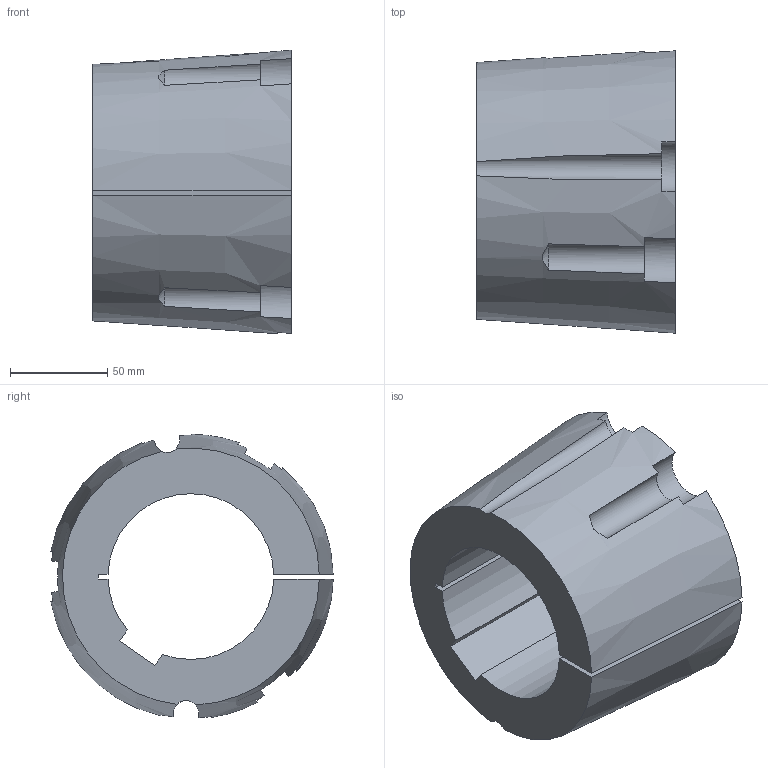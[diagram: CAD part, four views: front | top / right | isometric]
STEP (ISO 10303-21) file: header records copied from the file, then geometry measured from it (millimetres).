
FILE_DESCRIPTION( ( 'STEP AP203' ), '1' );
FILE_NAME( 'D:/export/antriebselemente/spannbuchsen_und_spannsaetze/taper-spannbuchsen_1008_bis_5050/taper-spannbuchsen_62251485Isometric_245.stp', '2018-12-11T11:11:34', ( '' ), ( '' ), ' ', 'PARTsolutions', ' ' );
FILE_SCHEMA( ( 'CONFIG_CONTROL_DESIGN' ) );
Length unit declared in the file: millimetre
Products named in the file (1): _taper-spannbuchsen_62251485
Bounding box: 102 x 144.84 x 145.4 mm (x, y, z)
Volume: 903168 mm3; surface area: 100367.4 mm2
Topology: 1 solids, 1 shells, 34 faces, 96 edges, 64 vertices
Faces by surface type: plane 15, cylinder 13, cone 6
Entity records: 1310 total; most frequent: CARTESIAN_POINT 386, ORIENTED_EDGE 192, DIRECTION 186, EDGE_CURVE 96, AXIS2_PLACEMENT_3D 80, VERTEX_POINT 64, CIRCLE 45, ADVANCED_FACE 34
